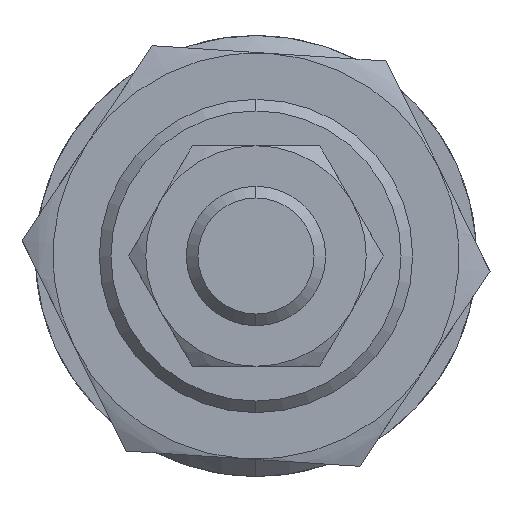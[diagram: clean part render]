
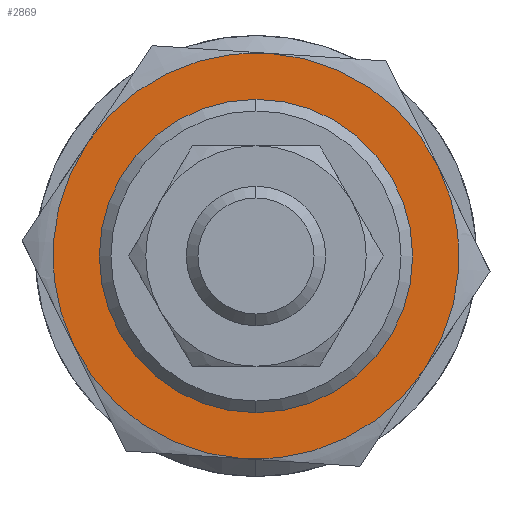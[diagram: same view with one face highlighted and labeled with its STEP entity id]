
A CAD part, left-side view. The second image highlights one B-rep face of the part: STEP entity #2869.
In plain terms, the highlighted planar face has unit normal (-1, 0, 0) as drawn and (0, 0, -1) by its records, which use the part's own axes.
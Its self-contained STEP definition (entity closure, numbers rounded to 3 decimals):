
#64 = DIRECTION ( 'NONE',  ( 1., 0., 0. ) ) ;
#67 = DIRECTION ( 'NONE',  ( 1., 0., 0. ) ) ;
#70 = DIRECTION ( 'NONE',  ( 0., 0., 1. ) ) ;
#79 = CARTESIAN_POINT ( 'NONE',  ( 0., 0., -5. ) ) ;
#100 = CARTESIAN_POINT ( 'NONE',  ( 0., 0., -5. ) ) ;
#202 = DIRECTION ( 'NONE',  ( 1., 0., 0. ) ) ;
#215 = AXIS2_PLACEMENT_3D ( 'NONE', #371, #2679, #64 ) ;
#230 = DIRECTION ( 'NONE',  ( 0., 0., 1. ) ) ;
#247 = CARTESIAN_POINT ( 'NONE',  ( 0., 0., -5. ) ) ;
#260 = CIRCLE ( 'NONE', #1363, 12.5 ) ;
#270 = ORIENTED_EDGE ( 'NONE', *, *, #1383, .F. ) ;
#295 = CIRCLE ( 'NONE', #2326, 17.5 ) ;
#341 = PLANE ( 'NONE',  #215 ) ;
#360 = DIRECTION ( 'NONE',  ( 1., 0., 0. ) ) ;
#371 = CARTESIAN_POINT ( 'NONE',  ( 0., 0., -5. ) ) ;
#438 = VERTEX_POINT ( 'NONE', #3009 ) ;
#456 = DIRECTION ( 'NONE',  ( 0., 0., 1. ) ) ;
#492 = DIRECTION ( 'NONE',  ( 0., 0., 1. ) ) ;
#535 = DIRECTION ( 'NONE',  ( 1., 0., 0. ) ) ;
#622 = VERTEX_POINT ( 'NONE', #1880 ) ;
#702 = EDGE_CURVE ( 'NONE', #1390, #438, #2271, .T. ) ;
#773 = CARTESIAN_POINT ( 'NONE',  ( 0., 0., -5. ) ) ;
#794 = ORIENTED_EDGE ( 'NONE', *, *, #896, .T. ) ;
#861 = VERTEX_POINT ( 'NONE', #2812 ) ;
#882 = DIRECTION ( 'NONE',  ( 0., 0., 1. ) ) ;
#893 = AXIS2_PLACEMENT_3D ( 'NONE', #1861, #2919, #2686 ) ;
#896 = EDGE_CURVE ( 'NONE', #3008, #861, #2007, .T. ) ;
#927 = FACE_BOUND ( 'NONE', #1766, .T. ) ;
#941 = AXIS2_PLACEMENT_3D ( 'NONE', #247, #492, #535 ) ;
#976 = CIRCLE ( 'NONE', #1252, 17.5 ) ;
#1133 = DIRECTION ( 'NONE',  ( 1., 0., 0. ) ) ;
#1239 = EDGE_LOOP ( 'NONE', ( #270, #2240, #1854, #1424, #2442, #1931 ) ) ;
#1252 = AXIS2_PLACEMENT_3D ( 'NONE', #1570, #70, #2659 ) ;
#1254 = ORIENTED_EDGE ( 'NONE', *, *, #2391, .T. ) ;
#1363 = AXIS2_PLACEMENT_3D ( 'NONE', #100, #882, #360 ) ;
#1383 = EDGE_CURVE ( 'NONE', #622, #2974, #976, .T. ) ;
#1390 = VERTEX_POINT ( 'NONE', #2399 ) ;
#1424 = ORIENTED_EDGE ( 'NONE', *, *, #3129, .F. ) ;
#1570 = CARTESIAN_POINT ( 'NONE',  ( 0., 0., -5. ) ) ;
#1728 = DIRECTION ( 'NONE',  ( 1., 0., 0. ) ) ;
#1766 = EDGE_LOOP ( 'NONE', ( #794, #1254 ) ) ;
#1792 = AXIS2_PLACEMENT_3D ( 'NONE', #1962, #456, #202 ) ;
#1854 = ORIENTED_EDGE ( 'NONE', *, *, #3209, .F. ) ;
#1861 = CARTESIAN_POINT ( 'NONE',  ( 0., 0., -5. ) ) ;
#1880 = CARTESIAN_POINT ( 'NONE',  ( 17.5, 0., -5. ) ) ;
#1920 = CARTESIAN_POINT ( 'NONE',  ( 8.75, -15.155, -5. ) ) ;
#1928 = VERTEX_POINT ( 'NONE', #2580 ) ;
#1931 = ORIENTED_EDGE ( 'NONE', *, *, #2746, .F. ) ;
#1962 = CARTESIAN_POINT ( 'NONE',  ( 0., 0., -5. ) ) ;
#2007 = CIRCLE ( 'NONE', #2368, 12.5 ) ;
#2212 = AXIS2_PLACEMENT_3D ( 'NONE', #2285, #230, #1728 ) ;
#2215 = CARTESIAN_POINT ( 'NONE',  ( 12.5, 0., -5. ) ) ;
#2216 = FACE_OUTER_BOUND ( 'NONE', #1239, .T. ) ;
#2240 = ORIENTED_EDGE ( 'NONE', *, *, #3246, .F. ) ;
#2271 = CIRCLE ( 'NONE', #1792, 17.5 ) ;
#2285 = CARTESIAN_POINT ( 'NONE',  ( 0., 0., -5. ) ) ;
#2326 = AXIS2_PLACEMENT_3D ( 'NONE', #773, #2695, #1133 ) ;
#2368 = AXIS2_PLACEMENT_3D ( 'NONE', #79, #2637, #67 ) ;
#2391 = EDGE_CURVE ( 'NONE', #861, #3008, #260, .T. ) ;
#2399 = CARTESIAN_POINT ( 'NONE',  ( -8.75, 15.155, -5. ) ) ;
#2442 = ORIENTED_EDGE ( 'NONE', *, *, #702, .F. ) ;
#2568 = VERTEX_POINT ( 'NONE', #1920 ) ;
#2580 = CARTESIAN_POINT ( 'NONE',  ( -8.75, -15.155, -5. ) ) ;
#2637 = DIRECTION ( 'NONE',  ( 0., 0., 1. ) ) ;
#2659 = DIRECTION ( 'NONE',  ( 1., 0., 0. ) ) ;
#2679 = DIRECTION ( 'NONE',  ( 0., 0., 1. ) ) ;
#2686 = DIRECTION ( 'NONE',  ( 1., 0., 0. ) ) ;
#2695 = DIRECTION ( 'NONE',  ( 0., 0., 1. ) ) ;
#2746 = EDGE_CURVE ( 'NONE', #2974, #1390, #3269, .T. ) ;
#2812 = CARTESIAN_POINT ( 'NONE',  ( -12.5, 0., -5. ) ) ;
#2869 = ADVANCED_FACE ( 'NONE', ( #927, #2216 ), #341, .F. ) ;
#2919 = DIRECTION ( 'NONE',  ( 0., 0., 1. ) ) ;
#2952 = CIRCLE ( 'NONE', #2212, 17.5 ) ;
#2956 = CARTESIAN_POINT ( 'NONE',  ( 8.75, 15.155, -5. ) ) ;
#2974 = VERTEX_POINT ( 'NONE', #2956 ) ;
#3008 = VERTEX_POINT ( 'NONE', #2215 ) ;
#3009 = CARTESIAN_POINT ( 'NONE',  ( -17.5, 0., -5. ) ) ;
#3073 = CIRCLE ( 'NONE', #941, 17.5 ) ;
#3129 = EDGE_CURVE ( 'NONE', #438, #1928, #3073, .T. ) ;
#3209 = EDGE_CURVE ( 'NONE', #1928, #2568, #295, .T. ) ;
#3246 = EDGE_CURVE ( 'NONE', #2568, #622, #2952, .T. ) ;
#3269 = CIRCLE ( 'NONE', #893, 17.5 ) ;
